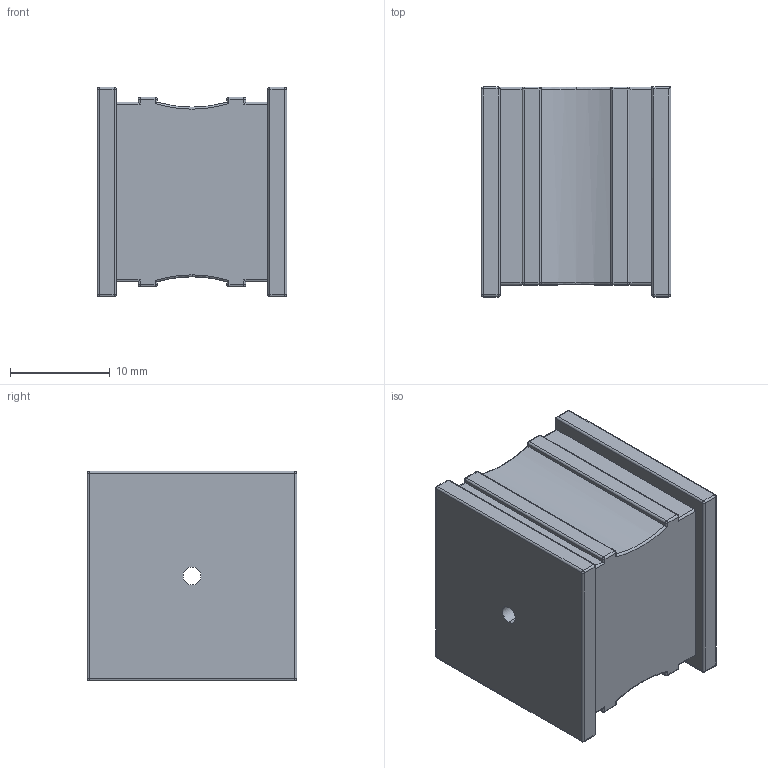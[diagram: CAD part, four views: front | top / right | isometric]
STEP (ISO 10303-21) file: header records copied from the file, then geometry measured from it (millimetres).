
FILE_DESCRIPTION (( 'STEP AP203' ), '1' );
FILE_NAME ('KT2.STEP', '2022-10-21T07:48:04', ( '' ), ( '' ), 'SwSTEP 2.0', 'SolidWorks 2016', '' );
FILE_SCHEMA (( 'CONFIG_CONTROL_DESIGN' ));
Length unit declared in the file: millimetre
Products named in the file (1): KT2
Bounding box: 19 x 21 x 21 mm (x, y, z)
Volume: 7013 mm3; surface area: 2668.1 mm2
Topology: 1 solids, 1 shells, 157 faces, 376 edges, 193 vertices
Faces by surface type: cylinder 71, bspline 53, plane 33
Entity records: 5196 total; most frequent: CARTESIAN_POINT 1968, ORIENTED_EDGE 690, DIRECTION 609, EDGE_CURVE 345, AXIS2_PLACEMENT_3D 220, VERTEX_POINT 193, LINE 169, VECTOR 169
